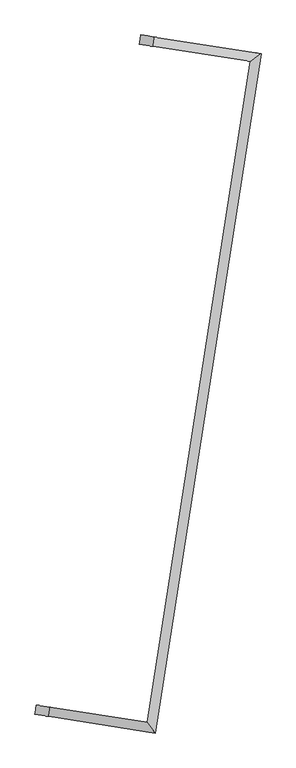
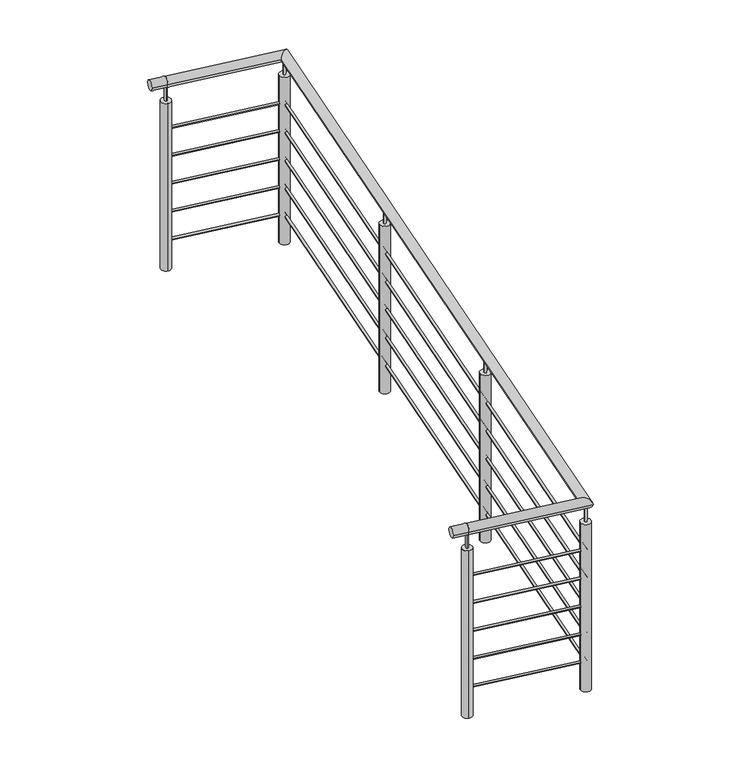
"""IFC4 building model written with IfcOpenShell, lengths in millimetres: railing geometry, Barandal acero inox - sobre balcón."""

from ifc_helpers import new_model, si_unit, point, frame, frame_2d, origin, place, context, project, spatial, circle_curve, ellipse_curve, trimmed, segment, composite_curve, outline, extrude, source, transform, mapped, element, save
from ifc_brep_helpers import plane_surface, cylinder_surface, advanced_brep


def railing_377abbd5(model_context):
    return source(origin(), model_context, "Body", "SolidModel", [
        advanced_brep(
        [(-24106.7505067, -74818.1550754, 13800.0), (-24114.5742085, -74868.3489962, 13800.0), (-23578.528682, -74900.4887524, 13800.0), (-23536.1584627, -74958.5063751, 13800.0), (-23019.5960179, -71314.587438, 13800.0), (-22961.5783955, -71272.217219, 13800.0), (-23547.8178247, -71232.2537633, 13800.0), (-23539.9941228, -71182.0598425, 13800.0)],
        [
            (0, 1, circle_curve(frame((-24110.6623576, -74843.2520358, 13800.0), z_axis=(-0.988069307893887, 0.15400987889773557, 0.0), x_axis=(-0.15400987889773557, -0.988069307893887, 0.0)), 25.4)),
            (1, 0, circle_curve(frame((-24110.6623576, -74843.2520358, 13800.0), z_axis=(-0.988069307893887, 0.15400987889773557, 0.0), x_axis=(-0.15400987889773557, -0.988069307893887, 0.0)), 25.4)),
            (0, 2),
            (2, 3, ellipse_curve(frame((-23557.3435724, -74929.4975638, 13800.0), z_axis=(-0.8075719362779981, -0.5897690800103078, 0.0), x_axis=(-0.5897690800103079, 0.8075719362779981, 0.0)), 35.9210246, 25.4)),
            (3, 1),
            (3, 2, ellipse_curve(frame((-23557.3435724, -74929.4975638, 13800.0), z_axis=(-0.8075719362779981, -0.5897690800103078, 0.0), x_axis=(-0.5897690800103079, 0.8075719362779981, 0.0)), 35.9210246, 25.4)),
            (2, 4),
            (4, 5, ellipse_curve(frame((-22990.5872067, -71293.4023285, 13800.0), z_axis=(0.589769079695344, -0.807571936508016, 0.0), x_axis=(-0.807571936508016, -0.589769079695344, 0.0)), 35.9210244, 25.4)),
            (5, 3),
            (5, 4, ellipse_curve(frame((-22990.5872067, -71293.4023285, 13800.0), z_axis=(0.589769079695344, -0.807571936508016, 0.0), x_axis=(-0.807571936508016, -0.589769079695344, 0.0)), 35.9210244, 25.4)),
            (6, 7, circle_curve(frame((-23543.9059738, -71207.1568029, 13800.0), z_axis=(-0.9880693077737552, 0.15400987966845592, 0.0), x_axis=(0.15400987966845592, 0.9880693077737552, 0.0)), 25.4)),
            (7, 6, circle_curve(frame((-23543.9059738, -71207.1568029, 13800.0), z_axis=(-0.9880693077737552, 0.15400987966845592, 0.0), x_axis=(0.15400987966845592, 0.9880693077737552, 0.0)), 25.4)),
            (4, 6),
            (7, 5),
        ],
        [
            plane_surface(frame((-24110.6623576, -74843.2520358, 13800.0), z_axis=(-0.988069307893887, 0.1540098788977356, 0.0), x_axis=(0.1540098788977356, 0.988069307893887, 0.0))),
            cylinder_surface(frame((-24110.6623576, -74843.2520358, 13800.0), z_axis=(-0.988069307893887, 0.15400987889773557, 0.0), x_axis=(-0.15400987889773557, -0.988069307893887, 0.0)), 25.4),
            cylinder_surface(frame((-23557.3435724, -74929.4975638, 13800.0), z_axis=(-0.1540098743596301, -0.9880693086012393, 0.0), x_axis=(0.9880693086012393, -0.1540098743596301, 0.0)), 25.4),
            plane_surface(frame((-23543.9059738, -71207.1568029, 13800.0), z_axis=(-0.9880693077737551, 0.15400987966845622, 0.0), x_axis=(0.15400987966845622, 0.9880693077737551, 0.0))),
            cylinder_surface(frame((-22990.5872067, -71293.4023285, 13800.0), z_axis=(0.9880693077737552, -0.15400987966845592, 0.0), x_axis=(0.15400987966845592, 0.9880693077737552, 0.0)), 25.4),
        ],
        [
            (0, [[1, 2]]),
            (1, [[-1, 3, 4, 5]]),
            (1, [[-2, -5, 6, -3]]),
            (2, [[-4, 7, 8, 9]]),
            (2, [[-6, -9, 10, -7]]),
            (3, [[11, 12]]),
            (4, [[-8, 13, -12, 14]]),
            (4, [[-10, -14, -11, -13]]),
        ],
    ),
        advanced_brep(
        [(-24109.6843949, -74836.9777957, 13550.0), (-24111.6403203, -74849.5262759, 13550.0), (-23562.6398498, -74922.2453609, 13550.0), (-23552.047295, -74936.7497666, 13550.0), (-22997.8394095, -71298.6986059, 13550.0), (-22983.3350039, -71288.1060511, 13550.0), (-23544.8839365, -71213.431043, 13550.0), (-23542.928011, -71200.8825628, 13550.0)],
        [
            (0, 1, circle_curve(frame((-24110.6623576, -74843.2520358, 13550.0), z_axis=(-0.988069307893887, 0.15400987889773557, 0.0), x_axis=(-0.15400987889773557, -0.988069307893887, 0.0)), 6.35)),
            (1, 0, circle_curve(frame((-24110.6623576, -74843.2520358, 13550.0), z_axis=(-0.988069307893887, 0.15400987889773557, 0.0), x_axis=(-0.15400987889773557, -0.988069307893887, 0.0)), 6.35)),
            (0, 2),
            (2, 3, ellipse_curve(frame((-23557.3435724, -74929.4975638, 13550.0), z_axis=(-0.8075719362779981, -0.5897690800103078, 0.0), x_axis=(-0.5897690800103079, 0.8075719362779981, 0.0)), 8.9802561, 6.35)),
            (3, 1),
            (3, 2, ellipse_curve(frame((-23557.3435724, -74929.4975638, 13550.0), z_axis=(-0.8075719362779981, -0.5897690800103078, 0.0), x_axis=(-0.5897690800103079, 0.8075719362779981, 0.0)), 8.9802561, 6.35)),
            (2, 4),
            (4, 5, ellipse_curve(frame((-22990.5872067, -71293.4023285, 13550.0), z_axis=(0.589769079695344, -0.807571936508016, 0.0), x_axis=(-0.807571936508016, -0.589769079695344, 0.0)), 8.9802561, 6.35)),
            (5, 3),
            (5, 4, ellipse_curve(frame((-22990.5872067, -71293.4023285, 13550.0), z_axis=(0.589769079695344, -0.807571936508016, 0.0), x_axis=(-0.807571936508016, -0.589769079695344, 0.0)), 8.9802561, 6.35)),
            (6, 7, circle_curve(frame((-23543.9059738, -71207.1568029, 13550.0), z_axis=(-0.9880693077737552, 0.15400987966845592, 0.0), x_axis=(0.15400987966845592, 0.9880693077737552, 0.0)), 6.35)),
            (7, 6, circle_curve(frame((-23543.9059738, -71207.1568029, 13550.0), z_axis=(-0.9880693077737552, 0.15400987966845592, 0.0), x_axis=(0.15400987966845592, 0.9880693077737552, 0.0)), 6.35)),
            (4, 6),
            (7, 5),
        ],
        [
            plane_surface(frame((-24110.6623576, -74843.2520358, 13550.0), z_axis=(-0.988069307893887, 0.1540098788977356, 0.0), x_axis=(0.1540098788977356, 0.988069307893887, 0.0))),
            cylinder_surface(frame((-24110.6623576, -74843.2520358, 13550.0), z_axis=(-0.988069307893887, 0.15400987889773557, 0.0), x_axis=(-0.15400987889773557, -0.988069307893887, 0.0)), 6.35),
            cylinder_surface(frame((-23557.3435724, -74929.4975638, 13550.0), z_axis=(-0.1540098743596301, -0.9880693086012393, 0.0), x_axis=(0.9880693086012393, -0.1540098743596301, 0.0)), 6.35),
            plane_surface(frame((-23543.9059738, -71207.1568029, 13550.0), z_axis=(-0.9880693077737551, 0.15400987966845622, 0.0), x_axis=(0.15400987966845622, 0.9880693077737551, 0.0))),
            cylinder_surface(frame((-22990.5872067, -71293.4023285, 13550.0), z_axis=(0.9880693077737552, -0.15400987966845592, 0.0), x_axis=(0.15400987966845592, 0.9880693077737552, 0.0)), 6.35),
        ],
        [
            (0, [[1, 2]]),
            (1, [[-1, 3, 4, 5]]),
            (1, [[-2, -5, 6, -3]]),
            (2, [[-4, 7, 8, 9]]),
            (2, [[-6, -9, 10, -7]]),
            (3, [[11, 12]]),
            (4, [[-8, 13, -12, 14]]),
            (4, [[-10, -14, -11, -13]]),
        ],
    ),
        advanced_brep(
        [(-24109.6843949, -74836.9777957, 13400.0), (-24111.6403203, -74849.5262759, 13400.0), (-23562.6398498, -74922.2453609, 13400.0), (-23552.047295, -74936.7497666, 13400.0), (-22997.8394095, -71298.6986059, 13400.0), (-22983.3350039, -71288.1060511, 13400.0), (-23544.8839365, -71213.431043, 13400.0), (-23542.928011, -71200.8825628, 13400.0)],
        [
            (0, 1, circle_curve(frame((-24110.6623576, -74843.2520358, 13400.0), z_axis=(-0.988069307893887, 0.15400987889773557, 0.0), x_axis=(-0.15400987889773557, -0.988069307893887, 0.0)), 6.35)),
            (1, 0, circle_curve(frame((-24110.6623576, -74843.2520358, 13400.0), z_axis=(-0.988069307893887, 0.15400987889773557, 0.0), x_axis=(-0.15400987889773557, -0.988069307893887, 0.0)), 6.35)),
            (0, 2),
            (2, 3, ellipse_curve(frame((-23557.3435724, -74929.4975638, 13400.0), z_axis=(-0.8075719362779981, -0.5897690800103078, 0.0), x_axis=(-0.5897690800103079, 0.8075719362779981, 0.0)), 8.9802561, 6.35)),
            (3, 1),
            (3, 2, ellipse_curve(frame((-23557.3435724, -74929.4975638, 13400.0), z_axis=(-0.8075719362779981, -0.5897690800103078, 0.0), x_axis=(-0.5897690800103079, 0.8075719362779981, 0.0)), 8.9802561, 6.35)),
            (2, 4),
            (4, 5, ellipse_curve(frame((-22990.5872067, -71293.4023285, 13400.0), z_axis=(0.589769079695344, -0.807571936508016, 0.0), x_axis=(-0.807571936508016, -0.589769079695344, 0.0)), 8.9802561, 6.35)),
            (5, 3),
            (5, 4, ellipse_curve(frame((-22990.5872067, -71293.4023285, 13400.0), z_axis=(0.589769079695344, -0.807571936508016, 0.0), x_axis=(-0.807571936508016, -0.589769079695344, 0.0)), 8.9802561, 6.35)),
            (6, 7, circle_curve(frame((-23543.9059738, -71207.1568029, 13400.0), z_axis=(-0.9880693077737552, 0.15400987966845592, 0.0), x_axis=(0.15400987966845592, 0.9880693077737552, 0.0)), 6.35)),
            (7, 6, circle_curve(frame((-23543.9059738, -71207.1568029, 13400.0), z_axis=(-0.9880693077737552, 0.15400987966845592, 0.0), x_axis=(0.15400987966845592, 0.9880693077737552, 0.0)), 6.35)),
            (4, 6),
            (7, 5),
        ],
        [
            plane_surface(frame((-24110.6623576, -74843.2520358, 13400.0), z_axis=(-0.988069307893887, 0.1540098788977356, 0.0), x_axis=(0.1540098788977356, 0.988069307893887, 0.0))),
            cylinder_surface(frame((-24110.6623576, -74843.2520358, 13400.0), z_axis=(-0.988069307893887, 0.15400987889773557, 0.0), x_axis=(-0.15400987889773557, -0.988069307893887, 0.0)), 6.35),
            cylinder_surface(frame((-23557.3435724, -74929.4975638, 13400.0), z_axis=(-0.1540098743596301, -0.9880693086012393, 0.0), x_axis=(0.9880693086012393, -0.1540098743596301, 0.0)), 6.35),
            plane_surface(frame((-23543.9059738, -71207.1568029, 13400.0), z_axis=(-0.9880693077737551, 0.15400987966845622, 0.0), x_axis=(0.15400987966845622, 0.9880693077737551, 0.0))),
            cylinder_surface(frame((-22990.5872067, -71293.4023285, 13400.0), z_axis=(0.9880693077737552, -0.15400987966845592, 0.0), x_axis=(0.15400987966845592, 0.9880693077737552, 0.0)), 6.35),
        ],
        [
            (0, [[1, 2]]),
            (1, [[-1, 3, 4, 5]]),
            (1, [[-2, -5, 6, -3]]),
            (2, [[-4, 7, 8, 9]]),
            (2, [[-6, -9, 10, -7]]),
            (3, [[11, 12]]),
            (4, [[-8, 13, -12, 14]]),
            (4, [[-10, -14, -11, -13]]),
        ],
    ),
        advanced_brep(
        [(-24109.6843949, -74836.9777957, 13250.0), (-24111.6403203, -74849.5262759, 13250.0), (-23562.6398498, -74922.2453609, 13250.0), (-23552.047295, -74936.7497666, 13250.0), (-22997.8394095, -71298.6986059, 13250.0), (-22983.3350039, -71288.1060511, 13250.0), (-23544.8839365, -71213.431043, 13250.0), (-23542.928011, -71200.8825628, 13250.0)],
        [
            (0, 1, circle_curve(frame((-24110.6623576, -74843.2520358, 13250.0), z_axis=(-0.988069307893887, 0.15400987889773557, 0.0), x_axis=(-0.15400987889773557, -0.988069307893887, 0.0)), 6.35)),
            (1, 0, circle_curve(frame((-24110.6623576, -74843.2520358, 13250.0), z_axis=(-0.988069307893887, 0.15400987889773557, 0.0), x_axis=(-0.15400987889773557, -0.988069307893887, 0.0)), 6.35)),
            (0, 2),
            (2, 3, ellipse_curve(frame((-23557.3435724, -74929.4975638, 13250.0), z_axis=(-0.8075719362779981, -0.5897690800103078, 0.0), x_axis=(-0.5897690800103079, 0.8075719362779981, 0.0)), 8.9802561, 6.35)),
            (3, 1),
            (3, 2, ellipse_curve(frame((-23557.3435724, -74929.4975638, 13250.0), z_axis=(-0.8075719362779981, -0.5897690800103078, 0.0), x_axis=(-0.5897690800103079, 0.8075719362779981, 0.0)), 8.9802561, 6.35)),
            (2, 4),
            (4, 5, ellipse_curve(frame((-22990.5872067, -71293.4023285, 13250.0), z_axis=(0.589769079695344, -0.807571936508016, 0.0), x_axis=(-0.807571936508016, -0.589769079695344, 0.0)), 8.9802561, 6.35)),
            (5, 3),
            (5, 4, ellipse_curve(frame((-22990.5872067, -71293.4023285, 13250.0), z_axis=(0.589769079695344, -0.807571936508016, 0.0), x_axis=(-0.807571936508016, -0.589769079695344, 0.0)), 8.9802561, 6.35)),
            (6, 7, circle_curve(frame((-23543.9059738, -71207.1568029, 13250.0), z_axis=(-0.9880693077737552, 0.15400987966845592, 0.0), x_axis=(0.15400987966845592, 0.9880693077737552, 0.0)), 6.35)),
            (7, 6, circle_curve(frame((-23543.9059738, -71207.1568029, 13250.0), z_axis=(-0.9880693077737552, 0.15400987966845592, 0.0), x_axis=(0.15400987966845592, 0.9880693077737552, 0.0)), 6.35)),
            (4, 6),
            (7, 5),
        ],
        [
            plane_surface(frame((-24110.6623576, -74843.2520358, 13250.0), z_axis=(-0.988069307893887, 0.1540098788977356, 0.0), x_axis=(0.1540098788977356, 0.988069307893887, 0.0))),
            cylinder_surface(frame((-24110.6623576, -74843.2520358, 13250.0), z_axis=(-0.988069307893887, 0.15400987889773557, 0.0), x_axis=(-0.15400987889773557, -0.988069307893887, 0.0)), 6.35),
            cylinder_surface(frame((-23557.3435724, -74929.4975638, 13250.0), z_axis=(-0.1540098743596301, -0.9880693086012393, 0.0), x_axis=(0.9880693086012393, -0.1540098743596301, 0.0)), 6.35),
            plane_surface(frame((-23543.9059738, -71207.1568029, 13250.0), z_axis=(-0.9880693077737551, 0.15400987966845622, 0.0), x_axis=(0.15400987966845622, 0.9880693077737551, 0.0))),
            cylinder_surface(frame((-22990.5872067, -71293.4023285, 13250.0), z_axis=(0.9880693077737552, -0.15400987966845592, 0.0), x_axis=(0.15400987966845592, 0.9880693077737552, 0.0)), 6.35),
        ],
        [
            (0, [[1, 2]]),
            (1, [[-1, 3, 4, 5]]),
            (1, [[-2, -5, 6, -3]]),
            (2, [[-4, 7, 8, 9]]),
            (2, [[-6, -9, 10, -7]]),
            (3, [[11, 12]]),
            (4, [[-8, 13, -12, 14]]),
            (4, [[-10, -14, -11, -13]]),
        ],
    ),
        advanced_brep(
        [(-24109.6843949, -74836.9777957, 13100.0), (-24111.6403203, -74849.5262759, 13100.0), (-23562.6398498, -74922.2453609, 13100.0), (-23552.047295, -74936.7497666, 13100.0), (-22997.8394095, -71298.6986059, 13100.0), (-22983.3350039, -71288.1060511, 13100.0), (-23544.8839365, -71213.431043, 13100.0), (-23542.928011, -71200.8825628, 13100.0)],
        [
            (0, 1, circle_curve(frame((-24110.6623576, -74843.2520358, 13100.0), z_axis=(-0.988069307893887, 0.15400987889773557, 0.0), x_axis=(-0.15400987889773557, -0.988069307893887, 0.0)), 6.35)),
            (1, 0, circle_curve(frame((-24110.6623576, -74843.2520358, 13100.0), z_axis=(-0.988069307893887, 0.15400987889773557, 0.0), x_axis=(-0.15400987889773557, -0.988069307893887, 0.0)), 6.35)),
            (0, 2),
            (2, 3, ellipse_curve(frame((-23557.3435724, -74929.4975638, 13100.0), z_axis=(-0.8075719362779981, -0.5897690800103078, 0.0), x_axis=(-0.5897690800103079, 0.8075719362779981, 0.0)), 8.9802561, 6.35)),
            (3, 1),
            (3, 2, ellipse_curve(frame((-23557.3435724, -74929.4975638, 13100.0), z_axis=(-0.8075719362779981, -0.5897690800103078, 0.0), x_axis=(-0.5897690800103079, 0.8075719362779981, 0.0)), 8.9802561, 6.35)),
            (2, 4),
            (4, 5, ellipse_curve(frame((-22990.5872067, -71293.4023285, 13100.0), z_axis=(0.589769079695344, -0.807571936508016, 0.0), x_axis=(-0.807571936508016, -0.589769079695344, 0.0)), 8.9802561, 6.35)),
            (5, 3),
            (5, 4, ellipse_curve(frame((-22990.5872067, -71293.4023285, 13100.0), z_axis=(0.589769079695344, -0.807571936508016, 0.0), x_axis=(-0.807571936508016, -0.589769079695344, 0.0)), 8.9802561, 6.35)),
            (6, 7, circle_curve(frame((-23543.9059738, -71207.1568029, 13100.0), z_axis=(-0.9880693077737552, 0.15400987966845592, 0.0), x_axis=(0.15400987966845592, 0.9880693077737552, 0.0)), 6.35)),
            (7, 6, circle_curve(frame((-23543.9059738, -71207.1568029, 13100.0), z_axis=(-0.9880693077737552, 0.15400987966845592, 0.0), x_axis=(0.15400987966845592, 0.9880693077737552, 0.0)), 6.35)),
            (4, 6),
            (7, 5),
        ],
        [
            plane_surface(frame((-24110.6623576, -74843.2520358, 13100.0), z_axis=(-0.988069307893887, 0.1540098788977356, 0.0), x_axis=(0.1540098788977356, 0.988069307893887, 0.0))),
            cylinder_surface(frame((-24110.6623576, -74843.2520358, 13100.0), z_axis=(-0.988069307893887, 0.15400987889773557, 0.0), x_axis=(-0.15400987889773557, -0.988069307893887, 0.0)), 6.35),
            cylinder_surface(frame((-23557.3435724, -74929.4975638, 13100.0), z_axis=(-0.1540098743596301, -0.9880693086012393, 0.0), x_axis=(0.9880693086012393, -0.1540098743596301, 0.0)), 6.35),
            plane_surface(frame((-23543.9059738, -71207.1568029, 13100.0), z_axis=(-0.9880693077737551, 0.15400987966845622, 0.0), x_axis=(0.15400987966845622, 0.9880693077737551, 0.0))),
            cylinder_surface(frame((-22990.5872067, -71293.4023285, 13100.0), z_axis=(0.9880693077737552, -0.15400987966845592, 0.0), x_axis=(0.15400987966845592, 0.9880693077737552, 0.0)), 6.35),
        ],
        [
            (0, [[1, 2]]),
            (1, [[-1, 3, 4, 5]]),
            (1, [[-2, -5, 6, -3]]),
            (2, [[-4, 7, 8, 9]]),
            (2, [[-6, -9, 10, -7]]),
            (3, [[11, 12]]),
            (4, [[-8, 13, -12, 14]]),
            (4, [[-10, -14, -11, -13]]),
        ],
    ),
        advanced_brep(
        [(-24109.6843949, -74836.9777957, 12950.0), (-24111.6403203, -74849.5262759, 12950.0), (-23562.6398498, -74922.2453609, 12950.0), (-23552.047295, -74936.7497666, 12950.0), (-22997.8394095, -71298.6986059, 12950.0), (-22983.3350039, -71288.1060511, 12950.0), (-23544.8839365, -71213.431043, 12950.0), (-23542.928011, -71200.8825628, 12950.0)],
        [
            (0, 1, circle_curve(frame((-24110.6623576, -74843.2520358, 12950.0), z_axis=(-0.988069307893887, 0.15400987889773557, 0.0), x_axis=(-0.15400987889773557, -0.988069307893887, 0.0)), 6.35)),
            (1, 0, circle_curve(frame((-24110.6623576, -74843.2520358, 12950.0), z_axis=(-0.988069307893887, 0.15400987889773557, 0.0), x_axis=(-0.15400987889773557, -0.988069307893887, 0.0)), 6.35)),
            (0, 2),
            (2, 3, ellipse_curve(frame((-23557.3435724, -74929.4975638, 12950.0), z_axis=(-0.8075719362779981, -0.5897690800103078, 0.0), x_axis=(-0.5897690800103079, 0.8075719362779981, 0.0)), 8.9802561, 6.35)),
            (3, 1),
            (3, 2, ellipse_curve(frame((-23557.3435724, -74929.4975638, 12950.0), z_axis=(-0.8075719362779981, -0.5897690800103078, 0.0), x_axis=(-0.5897690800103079, 0.8075719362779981, 0.0)), 8.9802561, 6.35)),
            (2, 4),
            (4, 5, ellipse_curve(frame((-22990.5872067, -71293.4023285, 12950.0), z_axis=(0.589769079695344, -0.807571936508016, 0.0), x_axis=(-0.807571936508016, -0.589769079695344, 0.0)), 8.9802561, 6.35)),
            (5, 3),
            (5, 4, ellipse_curve(frame((-22990.5872067, -71293.4023285, 12950.0), z_axis=(0.589769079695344, -0.807571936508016, 0.0), x_axis=(-0.807571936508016, -0.589769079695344, 0.0)), 8.9802561, 6.35)),
            (6, 7, circle_curve(frame((-23543.9059738, -71207.1568029, 12950.0), z_axis=(-0.9880693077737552, 0.15400987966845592, 0.0), x_axis=(0.15400987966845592, 0.9880693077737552, 0.0)), 6.35)),
            (7, 6, circle_curve(frame((-23543.9059738, -71207.1568029, 12950.0), z_axis=(-0.9880693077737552, 0.15400987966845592, 0.0), x_axis=(0.15400987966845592, 0.9880693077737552, 0.0)), 6.35)),
            (4, 6),
            (7, 5),
        ],
        [
            plane_surface(frame((-24110.6623576, -74843.2520358, 12950.0), z_axis=(-0.988069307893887, 0.1540098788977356, 0.0), x_axis=(0.1540098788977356, 0.988069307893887, 0.0))),
            cylinder_surface(frame((-24110.6623576, -74843.2520358, 12950.0), z_axis=(-0.988069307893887, 0.15400987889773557, 0.0), x_axis=(-0.15400987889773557, -0.988069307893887, 0.0)), 6.35),
            cylinder_surface(frame((-23557.3435724, -74929.4975638, 12950.0), z_axis=(-0.1540098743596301, -0.9880693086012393, 0.0), x_axis=(0.9880693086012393, -0.1540098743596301, 0.0)), 6.35),
            plane_surface(frame((-23543.9059738, -71207.1568029, 12950.0), z_axis=(-0.9880693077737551, 0.15400987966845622, 0.0), x_axis=(0.15400987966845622, 0.9880693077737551, 0.0))),
            cylinder_surface(frame((-22990.5872067, -71293.4023285, 12950.0), z_axis=(0.9880693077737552, -0.15400987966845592, 0.0), x_axis=(0.15400987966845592, 0.9880693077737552, 0.0)), 6.35),
        ],
        [
            (0, [[1, 2]]),
            (1, [[-1, 3, 4, 5]]),
            (1, [[-2, -5, 6, -3]]),
            (2, [[-4, 7, 8, 9]]),
            (2, [[-6, -9, 10, -7]]),
            (3, [[11, 12]]),
            (4, [[-8, 13, -12, 14]]),
            (4, [[-10, -14, -11, -13]]),
        ],
    ),
        extrude(outline(composite_curve([segment(trimmed(circle_curve(frame_2d((-22990.5872067, -71293.4023285)), 6.35), [point((-22984.3129666, -71294.3802912))], [point((-22996.8614468, -71292.4243658))], False, "CARTESIAN"), True, "CONTINUOUS"), segment(trimmed(circle_curve(frame_2d((-22990.5872067, -71293.4023285)), 6.35), [point((-22996.8614468, -71292.4243658))], [point((-22984.3129666, -71294.3802912))], False, "CARTESIAN"), True, "CONTINUOUS")], self_intersect=False)), frame((0.0, 0.0, 13699.6), z_axis=(0.0, 0.0, 1.0), x_axis=(1.0, 0.0, 0.0)), (0.0, 0.0, 1.0), 75.0),
        extrude(outline(composite_curve([segment(trimmed(circle_curve(frame_2d((-22990.5872067, -71293.4023285)), 25.4), [point((-22965.4902463, -71297.3141793))], [point((-23015.6841672, -71289.4904777))], False, "CARTESIAN"), True, "CONTINUOUS"), segment(trimmed(circle_curve(frame_2d((-22990.5872067, -71293.4023285)), 25.4), [point((-23015.6841672, -71289.4904777))], [point((-22965.4902463, -71297.3141793))], False, "CARTESIAN"), True, "CONTINUOUS")], self_intersect=False)), frame((0.0, 0.0, 12800.0), z_axis=(0.0, 0.0, 1.0), x_axis=(1.0, 0.0, 0.0)), (0.0, 0.0, 1.0), 899.6),
        extrude(outline(composite_curve([segment(trimmed(circle_curve(frame_2d((-23179.5059953, -72505.4340736)), 6.35), [point((-23173.2317552, -72506.4120363))], [point((-23185.7802354, -72504.4561109))], False, "CARTESIAN"), True, "CONTINUOUS"), segment(trimmed(circle_curve(frame_2d((-23179.5059953, -72505.4340736)), 6.35), [point((-23185.7802354, -72504.4561109))], [point((-23173.2317552, -72506.4120363))], False, "CARTESIAN"), True, "CONTINUOUS")], self_intersect=False)), frame((0.0, 0.0, 13699.6), z_axis=(0.0, 0.0, 1.0), x_axis=(1.0, 0.0, 0.0)), (0.0, 0.0, 1.0), 75.0),
        extrude(outline(composite_curve([segment(trimmed(circle_curve(frame_2d((-23179.5059953, -72505.4340736)), 25.4), [point((-23154.4090348, -72509.3459244))], [point((-23204.6029557, -72501.5222228))], False, "CARTESIAN"), True, "CONTINUOUS"), segment(trimmed(circle_curve(frame_2d((-23179.5059953, -72505.4340736)), 25.4), [point((-23204.6029557, -72501.5222228))], [point((-23154.4090348, -72509.3459244))], False, "CARTESIAN"), True, "CONTINUOUS")], self_intersect=False)), frame((0.0, 0.0, 12800.0), z_axis=(0.0, 0.0, 1.0), x_axis=(1.0, 0.0, 0.0)), (0.0, 0.0, 1.0), 899.6),
        extrude(outline(composite_curve([segment(trimmed(circle_curve(frame_2d((-23368.4247838, -73717.4658187)), 6.35), [point((-23362.1505437, -73718.4437814))], [point((-23374.6990239, -73716.487856))], False, "CARTESIAN"), True, "CONTINUOUS"), segment(trimmed(circle_curve(frame_2d((-23368.4247838, -73717.4658187)), 6.35), [point((-23374.6990239, -73716.487856))], [point((-23362.1505437, -73718.4437814))], False, "CARTESIAN"), True, "CONTINUOUS")], self_intersect=False)), frame((0.0, 0.0, 13699.6), z_axis=(0.0, 0.0, 1.0), x_axis=(1.0, 0.0, 0.0)), (0.0, 0.0, 1.0), 75.0),
        extrude(outline(composite_curve([segment(trimmed(circle_curve(frame_2d((-23368.4247838, -73717.4658187)), 25.4), [point((-23343.3278234, -73721.3776695))], [point((-23393.5217442, -73713.5539679))], False, "CARTESIAN"), True, "CONTINUOUS"), segment(trimmed(circle_curve(frame_2d((-23368.4247838, -73717.4658187)), 25.4), [point((-23393.5217442, -73713.5539679))], [point((-23343.3278234, -73721.3776695))], False, "CARTESIAN"), True, "CONTINUOUS")], self_intersect=False)), frame((0.0, 0.0, 12800.0), z_axis=(0.0, 0.0, 1.0), x_axis=(1.0, 0.0, 0.0)), (0.0, 0.0, 1.0), 899.6),
        extrude(outline(composite_curve([segment(trimmed(circle_curve(frame_2d((-23557.3435724, -74929.4975638)), 6.35), [point((-23551.0693322, -74930.4755265))], [point((-23563.6178125, -74928.5196011))], False, "CARTESIAN"), True, "CONTINUOUS"), segment(trimmed(circle_curve(frame_2d((-23557.3435724, -74929.4975638)), 6.35), [point((-23563.6178125, -74928.5196011))], [point((-23551.0693322, -74930.4755265))], False, "CARTESIAN"), True, "CONTINUOUS")], self_intersect=False)), frame((0.0, 0.0, 13699.6), z_axis=(0.0, 0.0, 1.0), x_axis=(1.0, 0.0, 0.0)), (0.0, 0.0, 1.0), 75.0),
        extrude(outline(composite_curve([segment(trimmed(circle_curve(frame_2d((-23557.3435724, -74929.4975638)), 25.4), [point((-23532.2466119, -74933.4094146))], [point((-23582.4405328, -74925.585713))], False, "CARTESIAN"), True, "CONTINUOUS"), segment(trimmed(circle_curve(frame_2d((-23557.3435724, -74929.4975638)), 25.4), [point((-23582.4405328, -74925.585713))], [point((-23532.2466119, -74933.4094146))], False, "CARTESIAN"), True, "CONTINUOUS")], self_intersect=False)), frame((0.0, 0.0, 12800.0), z_axis=(0.0, 0.0, 1.0), x_axis=(1.0, 0.0, 0.0)), (0.0, 0.0, 1.0), 899.6),
        extrude(outline(composite_curve([segment(trimmed(circle_curve(frame_2d((0.0, -25.4)), 25.4), [point((0.0, -50.8))], [point((0.0, 0.0))], False, "CARTESIAN"), True, "CONTINUOUS"), segment(trimmed(circle_curve(frame_2d((0.0, -25.4)), 25.4), [point((0.0, 0.0))], [point((0.0, -50.8))], False, "CARTESIAN"), True, "CONTINUOUS")], self_intersect=False)), frame((-23547.8178247, -71232.2537633, 13800.0), z_axis=(-0.9880693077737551, 0.1540098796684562, 0.0), x_axis=(0.0, 0.0, -1.0)), (0.0, 0.0, 1.0), 75.0),
        extrude(outline(composite_curve([segment(trimmed(circle_curve(frame_2d((-23543.9059738, -71207.1568029)), 6.35), [point((-23542.928011, -71200.8825628))], [point((-23544.8839365, -71213.431043))], False, "CARTESIAN"), True, "CONTINUOUS"), segment(trimmed(circle_curve(frame_2d((-23543.9059738, -71207.1568029)), 6.35), [point((-23544.8839365, -71213.431043))], [point((-23542.928011, -71200.8825628))], False, "CARTESIAN"), True, "CONTINUOUS")], self_intersect=False)), frame((0.0, 0.0, 13699.6), z_axis=(0.0, 0.0, 1.0), x_axis=(1.0, 0.0, 0.0)), (0.0, 0.0, 1.0), 75.0),
        extrude(outline(composite_curve([segment(trimmed(circle_curve(frame_2d((-23543.9059738, -71207.1568029)), 25.4), [point((-23539.9941228, -71182.0598425))], [point((-23547.8178247, -71232.2537633))], False, "CARTESIAN"), True, "CONTINUOUS"), segment(trimmed(circle_curve(frame_2d((-23543.9059738, -71207.1568029)), 25.4), [point((-23547.8178247, -71232.2537633))], [point((-23539.9941228, -71182.0598425))], False, "CARTESIAN"), True, "CONTINUOUS")], self_intersect=False)), frame((0.0, 0.0, 12800.0), z_axis=(0.0, 0.0, 1.0), x_axis=(1.0, 0.0, 0.0)), (0.0, 0.0, 1.0), 899.6),
        extrude(outline(composite_curve([segment(trimmed(circle_curve(frame_2d((0.0, -25.4)), 25.4), [point((0.0, -50.8))], [point((0.0, 0.0))], False, "CARTESIAN"), True, "CONTINUOUS"), segment(trimmed(circle_curve(frame_2d((0.0, -25.4)), 25.4), [point((0.0, 0.0))], [point((0.0, -50.8))], False, "CARTESIAN"), True, "CONTINUOUS")], self_intersect=False)), frame((-24106.7505067, -74818.1550754, 13800.0), z_axis=(-0.9880693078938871, 0.15400987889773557, 0.0), x_axis=(0.0, 0.0, 1.0000000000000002)), (0.0, 0.0, 1.0), 75.0),
        extrude(outline(composite_curve([segment(trimmed(circle_curve(frame_2d((-24110.6623576, -74843.2520358)), 6.35), [point((-24111.6403203, -74849.5262759))], [point((-24109.6843949, -74836.9777957))], False, "CARTESIAN"), True, "CONTINUOUS"), segment(trimmed(circle_curve(frame_2d((-24110.6623576, -74843.2520358)), 6.35), [point((-24109.6843949, -74836.9777957))], [point((-24111.6403203, -74849.5262759))], False, "CARTESIAN"), True, "CONTINUOUS")], self_intersect=False)), frame((0.0, 0.0, 13699.6), z_axis=(0.0, 0.0, 1.0), x_axis=(1.0, 0.0, 0.0)), (0.0, 0.0, 1.0), 75.0),
        extrude(outline(composite_curve([segment(trimmed(circle_curve(frame_2d((-24110.6623576, -74843.2520358)), 25.4), [point((-24114.5742085, -74868.3489962))], [point((-24106.7505067, -74818.1550754))], False, "CARTESIAN"), True, "CONTINUOUS"), segment(trimmed(circle_curve(frame_2d((-24110.6623576, -74843.2520358)), 25.4), [point((-24106.7505067, -74818.1550754))], [point((-24114.5742085, -74868.3489962))], False, "CARTESIAN"), True, "CONTINUOUS")], self_intersect=False)), frame((0.0, 0.0, 12800.0), z_axis=(0.0, 0.0, 1.0), x_axis=(1.0, 0.0, 0.0)), (0.0, 0.0, 1.0), 899.6),
    ])


if __name__ == "__main__":
    model = new_model("IFC4")
    model_context = context("Model", 3, world=origin())
    ifc_project = project(units=[si_unit("LENGTHUNIT", "METRE", prefix="MILLI")], contexts=[model_context])
    site = spatial("IfcSite", under=ifc_project)
    building = spatial("IfcBuilding", under=site)
    placement = place(None, origin())
    railing_shape = railing_377abbd5(model_context)
    element("IfcRailing", 1, ObjectType="Barandal acero inox - sobre balcón", at=placement, inside=building, context=model_context, shape_type="MappedRepresentation", body=[
        mapped(railing_shape, transform((0.0, 0.0, 0.0), x_axis=(1.0, 0.0, 0.0), y_axis=(0.0, 1.0, 0.0), z_axis=(0.0, 0.0, 1.0))),
    ])
    save(model, "model.ifc")
